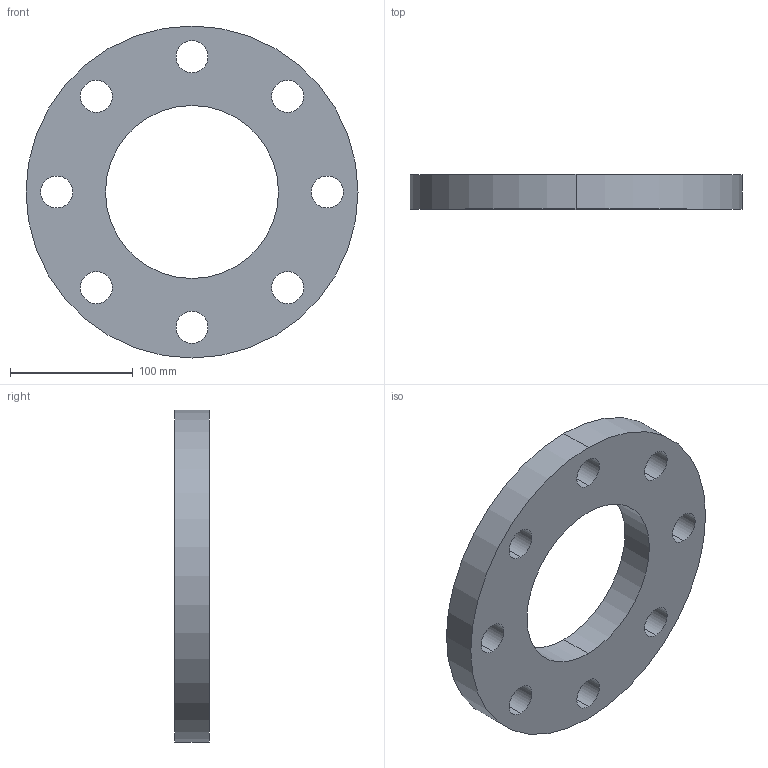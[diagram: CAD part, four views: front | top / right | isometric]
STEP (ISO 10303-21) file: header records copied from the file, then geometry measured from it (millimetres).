
FILE_DESCRIPTION (( 'STEP AP203' ), '1' );
FILE_NAME ('3D_R182-PN40_DN139.7_17623280.STEP', '2024-07-01T15:22:46', ( '' ), ( '' ), 'SwSTEP 2.0', 'SolidWorks 2024', '' );
FILE_SCHEMA (( 'CONFIG_CONTROL_DESIGN' ));
Length unit declared in the file: millimetre
Products named in the file (1): 3D_R182-PN40_DN139.7_17623280
Bounding box: 270 x 28 x 270 mm (x, y, z)
Volume: 1048879 mm3; surface area: 129343.6 mm2
Topology: 1 solids, 1 shells, 22 faces, 60 edges, 40 vertices
Faces by surface type: cylinder 20, plane 2
Entity records: 837 total; most frequent: DIRECTION 146, CARTESIAN_POINT 123, ORIENTED_EDGE 120, AXIS2_PLACEMENT_3D 63, EDGE_CURVE 60, EDGE_LOOP 40, CIRCLE 40, VERTEX_POINT 40
